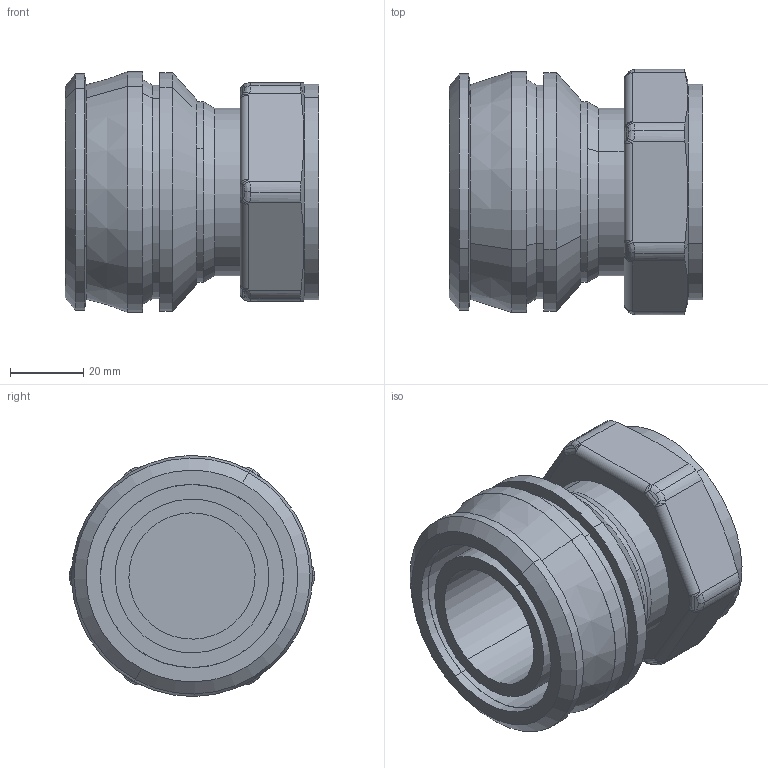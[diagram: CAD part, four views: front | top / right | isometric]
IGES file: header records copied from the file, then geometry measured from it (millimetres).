
Start section: 3D InterOp IGES (Version 25 0 1), Spatial Corp. Copyright (c) 1999-2007.
Global section: file name: pim0006816.igs; native system: Spatial Corp.; preprocessor: 3D InterOp ACIS/IGES; author: CAD-PIM; organization: TransMagic, Inc.; date: 20150618.152500; units: millimetre
Bounding box: 69.3 x 67 x 65.87 mm (x, y, z)
Volume: 131523.3 mm3; surface area: 34288.2 mm2
Topology: 1 solids, 1 shells, 124 faces, 305 edges, 193 vertices
Faces by surface type: bspline 66, cylinder 28, plane 18, cone 12
